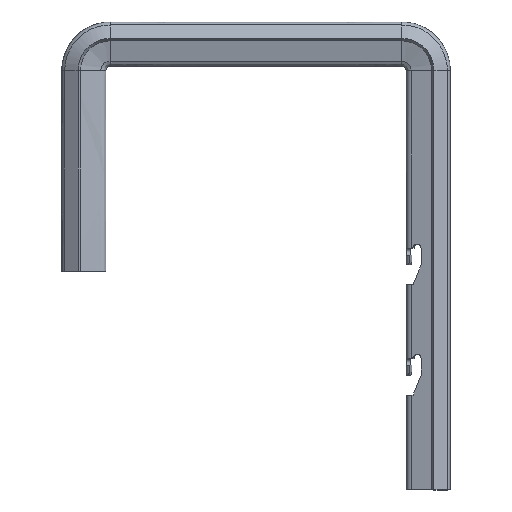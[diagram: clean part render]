
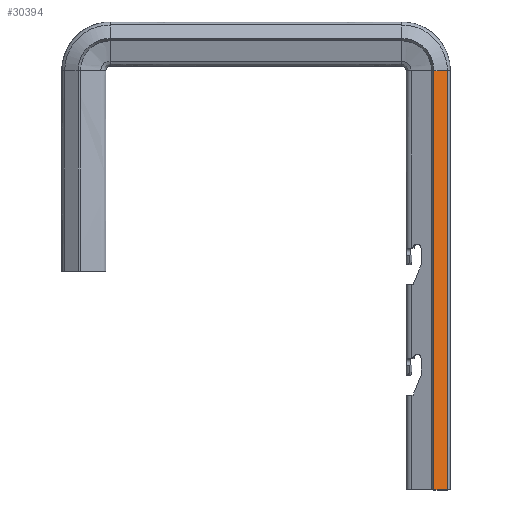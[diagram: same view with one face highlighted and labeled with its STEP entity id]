
A CAD part, left-side view. The second image highlights one B-rep face of the part: STEP entity #30394.
In plain terms, the highlighted planar face has unit normal (-0.832, -0.555, 0).
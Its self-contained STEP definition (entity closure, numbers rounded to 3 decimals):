
#1956 = VECTOR ( 'NONE', #13403, 1000. ) ;
#2170 = CARTESIAN_POINT ( 'NONE',  ( -21.972, -18.648, 190. ) ) ;
#5589 = EDGE_CURVE ( 'NONE', #26861, #33095, #41136, .T. ) ;
#7695 = DIRECTION ( 'NONE',  ( 0.555, -0.832, 0. ) ) ;
#8381 = CARTESIAN_POINT ( 'NONE',  ( -26., -12.606, 0. ) ) ;
#11164 = ORIENTED_EDGE ( 'NONE', *, *, #39391, .T. ) ;
#12581 = LINE ( 'NONE', #23568, #38012 ) ;
#12755 = VERTEX_POINT ( 'NONE', #2170 ) ;
#12818 = ORIENTED_EDGE ( 'NONE', *, *, #5589, .F. ) ;
#13403 = DIRECTION ( 'NONE',  ( -0.555, 0.832, 0. ) ) ;
#17452 = LINE ( 'NONE', #21037, #1956 ) ;
#19208 = EDGE_CURVE ( 'NONE', #36915, #33095, #45726, .T. ) ;
#21037 = CARTESIAN_POINT ( 'NONE',  ( -26., -12.606, 190. ) ) ;
#21410 = EDGE_CURVE ( 'NONE', #12755, #26861, #12581, .T. ) ;
#23394 = VECTOR ( 'NONE', #37543, 1000. ) ;
#23568 = CARTESIAN_POINT ( 'NONE',  ( -21.961, -18.664, 190. ) ) ;
#26861 = VERTEX_POINT ( 'NONE', #37744 ) ;
#27776 = DIRECTION ( 'NONE',  ( 0., 0., -1. ) ) ;
#29953 = CARTESIAN_POINT ( 'NONE',  ( -26., -12.606, 190. ) ) ;
#30394 = ADVANCED_FACE ( 'NONE', ( #43791 ), #36620, .T. ) ;
#30630 = ORIENTED_EDGE ( 'NONE', *, *, #19208, .T. ) ;
#31467 = DIRECTION ( 'NONE',  ( 0., 0., -1. ) ) ;
#32320 = DIRECTION ( 'NONE',  ( -0.832, -0.555, 0. ) ) ;
#33095 = VERTEX_POINT ( 'NONE', #41792 ) ;
#33504 = ORIENTED_EDGE ( 'NONE', *, *, #21410, .F. ) ;
#35207 = CARTESIAN_POINT ( 'NONE',  ( -26., -12.606, 190. ) ) ;
#36620 = PLANE ( 'NONE',  #43856 ) ;
#36915 = VERTEX_POINT ( 'NONE', #29953 ) ;
#37543 = DIRECTION ( 'NONE',  ( -0.555, 0.832, 0. ) ) ;
#37744 = CARTESIAN_POINT ( 'NONE',  ( -21.961, -18.664, 0. ) ) ;
#38012 = VECTOR ( 'NONE', #31467, 1000. ) ;
#38730 = VECTOR ( 'NONE', #27776, 1000. ) ;
#39391 = EDGE_CURVE ( 'NONE', #12755, #36915, #17452, .T. ) ;
#39962 = CARTESIAN_POINT ( 'NONE',  ( -26., -12.606, 190. ) ) ;
#40975 = EDGE_LOOP ( 'NONE', ( #12818, #33504, #11164, #30630 ) ) ;
#41136 = LINE ( 'NONE', #8381, #23394 ) ;
#41792 = CARTESIAN_POINT ( 'NONE',  ( -26., -12.606, 0. ) ) ;
#43791 = FACE_OUTER_BOUND ( 'NONE', #40975, .T. ) ;
#43856 = AXIS2_PLACEMENT_3D ( 'NONE', #39962, #32320, #7695 ) ;
#45726 = LINE ( 'NONE', #35207, #38730 ) ;
